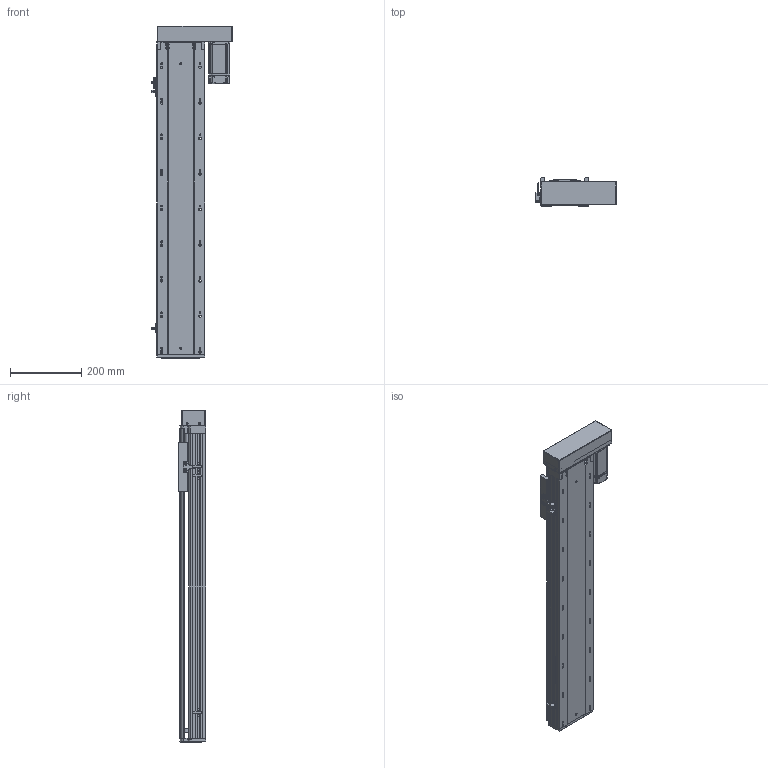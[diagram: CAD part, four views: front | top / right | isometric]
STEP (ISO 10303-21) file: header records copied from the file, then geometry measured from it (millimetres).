
FILE_DESCRIPTION (( 'STEP AP203' ), '1' );
FILE_NAME ('RY140-L1620-300-RK.SLDASM_650.step', '2021-02-22T02:54:38', ( '盈信电脑' ), ( '东莞市道滘镇水果街19号' ), 'SwSTEP 2.0', 'SolidWorks 2012', '' );
FILE_SCHEMA (( 'CONFIG_CONTROL_DESIGN' ));
Length unit declared in the file: millimetre
Products named in the file (14): RY120外置感应片(140共用）; RY140-L1620-300-RK.SLDASM_650; 覜茼ん672; 侂狟400W侜督萇儂; 15; RY140酘衵殏萇儂欶; RY140转折电机端支撑座; RY140蛌殏萇儂假蚾啣; 滅袉蝶18-10; RY140綴裔啣; 滅袉蝶18-24; RY140臏賑輸; RY140-300蛌殏倰第奻裔啣-RK_650; RY140-300蛌殏倰第菁釱-RK_650
Assembly tree (16 placements, depth 3):
  RY140-L1620-300-RK.SLDASM_650
    RY140-300蛌殏倰第菁釱-RK_650
    RY140臏賑輸
    RY140-300蛌殏倰第奻裔啣-RK_650
    RY140綴裔啣
    滅袉蝶18-24  x2
    滅袉蝶18-10
    RY140转折电机端支撑座
    RY140蛌殏萇儂假蚾啣
    侂狟400W侜督萇儂
      15
    RY140酘衵殏萇儂欶
    覜茼ん672  x3
    RY120外置感应片(140共用）
Bounding box: 225.2 x 78 x 933 mm (x, y, z)
Volume: 3160744.9 mm3; surface area: 1151754.3 mm2
Topology: 15 solids, 15 shells, 2335 faces, 6488 edges, 4162 vertices
Faces by surface type: plane 1178, cylinder 874, cone 190, bspline 93
Entity records: 74475 total; most frequent: CARTESIAN_POINT 18189, ORIENTED_EDGE 11688, DIRECTION 10997, EDGE_CURVE 5844, VERTEX_POINT 3830, VECTOR 3701, LINE 3701, AXIS2_PLACEMENT_3D 3648
